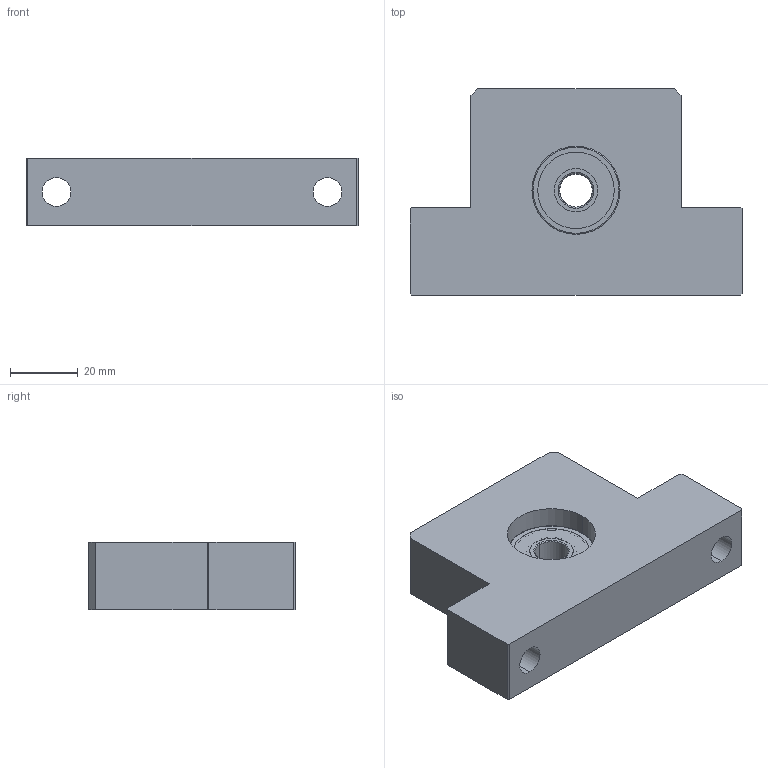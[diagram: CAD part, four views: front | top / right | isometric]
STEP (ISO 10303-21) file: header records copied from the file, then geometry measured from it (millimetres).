
FILE_DESCRIPTION (( 'STEP AP214' ), '1' );
FILE_NAME ('F-SBU-12.60-REV1.STEP', '2023-04-12T05:42:17', ( '' ), ( '' ), 'SwSTEP 2.0', 'SolidWorks 2021', '' );
FILE_SCHEMA (( 'AUTOMOTIVE_DESIGN' ));
Length unit declared in the file: millimetre
Products named in the file (9): 6000ZZ Outer ring; 6000ZZ Shield2; 6000ZZ Inner ring; 6000ZZ Ball; STWN10; F-SBU-12.60. BODY; 6000ZZ Shield1; 6000ZZ; F-SBU-12.60-REV1
Assembly tree (20 placements, depth 3):
  F-SBU-12.60-REV1
    F-SBU-12.60. BODY
    6000ZZ
      6000ZZ Shield2
      6000ZZ Ball  x13
      6000ZZ Inner ring
      6000ZZ Shield1
      6000ZZ Outer ring
    STWN10
Bounding box: 98 x 61 x 20 mm (x, y, z)
Volume: 83302.8 mm3; surface area: 21764.9 mm2
Topology: 19 solids, 19 shells, 121 faces, 310 edges, 205 vertices
Faces by surface type: cylinder 45, plane 36, sphere 26, torus 14
Entity records: 3251 total; most frequent: DIRECTION 579, CARTESIAN_POINT 484, ORIENTED_EDGE 442, AXIS2_PLACEMENT_3D 237, EDGE_CURVE 221, VERTEX_POINT 142, EDGE_LOOP 119, CIRCLE 116
